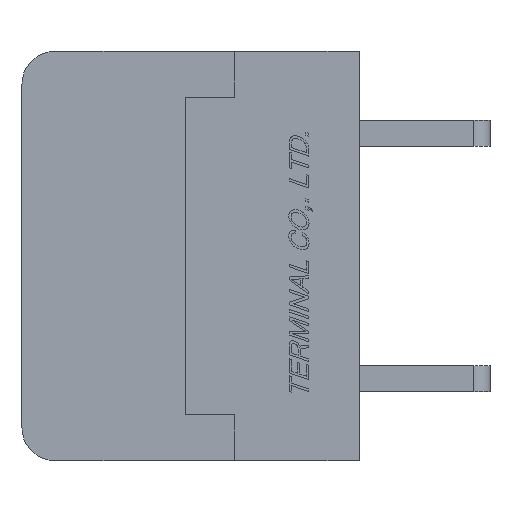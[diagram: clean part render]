
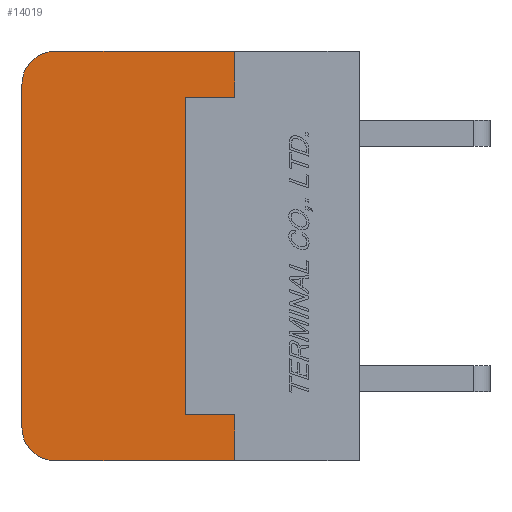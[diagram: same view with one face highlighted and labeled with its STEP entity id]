
A CAD part, left-side view. The second image highlights one B-rep face of the part: STEP entity #14019.
In plain terms, the highlighted planar face has unit normal (-1, 0, 0).
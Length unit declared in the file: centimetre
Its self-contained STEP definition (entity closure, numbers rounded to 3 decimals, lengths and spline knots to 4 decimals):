
#775=CIRCLE('',#23636,0.1);
#777=CIRCLE('',#23639,0.1);
#1840=VERTEX_POINT('',#21383);
#1841=VERTEX_POINT('',#21385);
#1843=VERTEX_POINT('',#21391);
#1845=VERTEX_POINT('',#21397);
#1846=VERTEX_POINT('',#21404);
#1847=VERTEX_POINT('',#21405);
#1848=VERTEX_POINT('',#21408);
#1849=VERTEX_POINT('',#21410);
#1850=VERTEX_POINT('',#21412);
#1851=VERTEX_POINT('',#21414);
#3344=VECTOR('',#16948,1.);
#3350=VECTOR('',#16968,1.);
#3351=VECTOR('',#16969,1.);
#3352=VECTOR('',#16970,1.);
#3353=VECTOR('',#16971,1.);
#3354=VECTOR('',#16972,1.);
#3355=VECTOR('',#16973,1.);
#3356=VECTOR('',#16974,1.);
#4916=LINE('',#21384,#3344);
#4922=LINE('',#21403,#3350);
#4923=LINE('',#21406,#3351);
#4924=LINE('',#21407,#3352);
#4925=LINE('',#21409,#3353);
#4926=LINE('',#21411,#3354);
#4927=LINE('',#21413,#3355);
#4928=LINE('',#21415,#3356);
#6928=EDGE_CURVE('',#1840,#1841,#4916,.T.);
#6932=EDGE_CURVE('',#1843,#1840,#775,.T.);
#6934=EDGE_CURVE('',#1841,#1845,#777,.T.);
#6938=EDGE_CURVE('',#1846,#1847,#4922,.T.);
#6939=EDGE_CURVE('',#1845,#1846,#4923,.T.);
#6940=EDGE_CURVE('',#1848,#1843,#4924,.T.);
#6941=EDGE_CURVE('',#1849,#1848,#4925,.T.);
#6942=EDGE_CURVE('',#1850,#1849,#4926,.T.);
#6943=EDGE_CURVE('',#1851,#1850,#4927,.T.);
#6944=EDGE_CURVE('',#1847,#1851,#4928,.T.);
#10590=ORIENTED_EDGE('',*,*,#6938,.F.);
#10591=ORIENTED_EDGE('',*,*,#6939,.F.);
#10592=ORIENTED_EDGE('',*,*,#6934,.F.);
#10593=ORIENTED_EDGE('',*,*,#6928,.F.);
#10594=ORIENTED_EDGE('',*,*,#6932,.F.);
#10595=ORIENTED_EDGE('',*,*,#6940,.F.);
#10596=ORIENTED_EDGE('',*,*,#6941,.F.);
#10597=ORIENTED_EDGE('',*,*,#6942,.F.);
#10598=ORIENTED_EDGE('',*,*,#6943,.F.);
#10599=ORIENTED_EDGE('',*,*,#6944,.F.);
#12335=EDGE_LOOP('',(#10590,#10591,#10592,#10593,#10594,#10595,#10596,#10597,
#10598,#10599));
#13201=FACE_BOUND('',#12335,.T.);
#14019=ADVANCED_FACE('',(#13201),#14627,.F.);
#14627=PLANE('',#23641);
#16948=DIRECTION('',(0.,0.,1.));
#16955=DIRECTION('',(1.,0.,0.));
#16956=DIRECTION('',(0.,0.,-0.1));
#16961=DIRECTION('',(1.,0.,0.));
#16962=DIRECTION('',(0.,0.,-0.1));
#16967=DIRECTION('',(1.,0.,0.));
#16968=DIRECTION('',(0.,0.,-1.));
#16969=DIRECTION('',(0.,-1.,0.));
#16970=DIRECTION('',(0.,1.,0.));
#16971=DIRECTION('',(0.,0.,-1.));
#16972=DIRECTION('',(0.,-1.,0.));
#16973=DIRECTION('',(0.,0.,-1.));
#16974=DIRECTION('',(0.,1.,0.));
#21383=CARTESIAN_POINT('',(-0.762,1.03,-0.525));
#21384=CARTESIAN_POINT('',(-0.762,1.03,-0.525));
#21385=CARTESIAN_POINT('',(-0.762,1.03,0.525));
#21391=CARTESIAN_POINT('',(-0.762,0.93,-0.625));
#21392=CARTESIAN_POINT('',(-0.762,0.93,-0.525));
#21396=CARTESIAN_POINT('',(-0.762,0.93,0.525));
#21397=CARTESIAN_POINT('',(-0.762,0.93,0.625));
#21402=CARTESIAN_POINT('',(-0.762,0.5047,0.));
#21403=CARTESIAN_POINT('',(-0.762,0.38,0.625));
#21404=CARTESIAN_POINT('',(-0.762,0.38,0.625));
#21405=CARTESIAN_POINT('',(-0.762,0.38,0.485));
#21406=CARTESIAN_POINT('',(-0.762,0.93,0.625));
#21407=CARTESIAN_POINT('',(-0.762,0.,-0.625));
#21408=CARTESIAN_POINT('',(-0.762,0.38,-0.625));
#21409=CARTESIAN_POINT('',(-0.762,0.38,-0.485));
#21410=CARTESIAN_POINT('',(-0.762,0.38,-0.485));
#21411=CARTESIAN_POINT('',(-0.762,0.53,-0.485));
#21412=CARTESIAN_POINT('',(-0.762,0.53,-0.485));
#21413=CARTESIAN_POINT('',(-0.762,0.53,0.485));
#21414=CARTESIAN_POINT('',(-0.762,0.53,0.485));
#21415=CARTESIAN_POINT('',(-0.762,0.38,0.485));
#23636=AXIS2_PLACEMENT_3D('',#21392,#16955,#16956);
#23639=AXIS2_PLACEMENT_3D('',#21396,#16961,#16962);
#23641=AXIS2_PLACEMENT_3D('',#21402,#16967,$);
